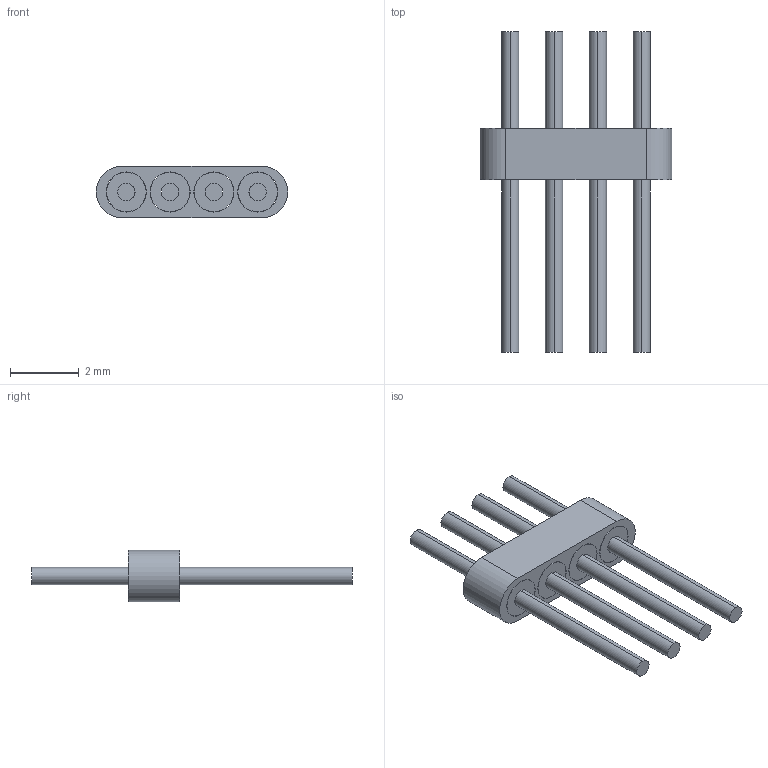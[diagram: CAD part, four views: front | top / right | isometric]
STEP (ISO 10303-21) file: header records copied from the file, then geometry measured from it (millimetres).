
FILE_DESCRIPTION (( 'STEP AP203' ), '1' );
FILE_NAME ('4о.STEP', '2023-11-09T01:29:26', ( 'China' ), ( 'Microsoft' ), 'SwSTEP 2.0', 'SolidWorks 2019', '' );
FILE_SCHEMA (( 'CONFIG_CONTROL_DESIGN' ));
Length unit declared in the file: millimetre
Products named in the file (1): 4о
Bounding box: 5.56 x 9.3 x 1.5 mm (x, y, z)
Volume: 17.8 mm3; surface area: 146.3 mm2
Topology: 9 solids, 9 shells, 54 faces, 108 edges, 72 vertices
Faces by surface type: cylinder 34, plane 20
Entity records: 1533 total; most frequent: DIRECTION 286, CARTESIAN_POINT 235, ORIENTED_EDGE 216, AXIS2_PLACEMENT_3D 123, EDGE_CURVE 108, VERTEX_POINT 72, EDGE_LOOP 70, CIRCLE 68
